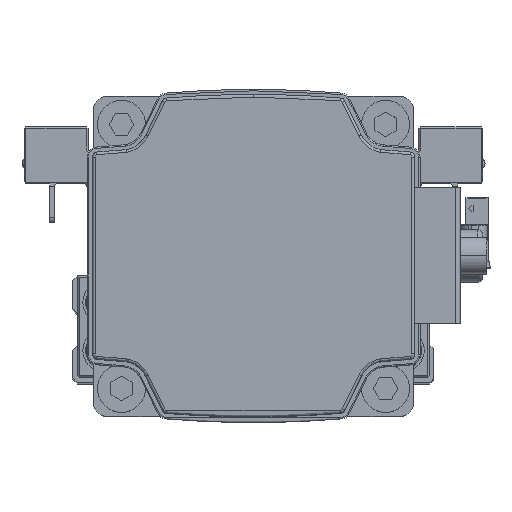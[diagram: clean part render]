
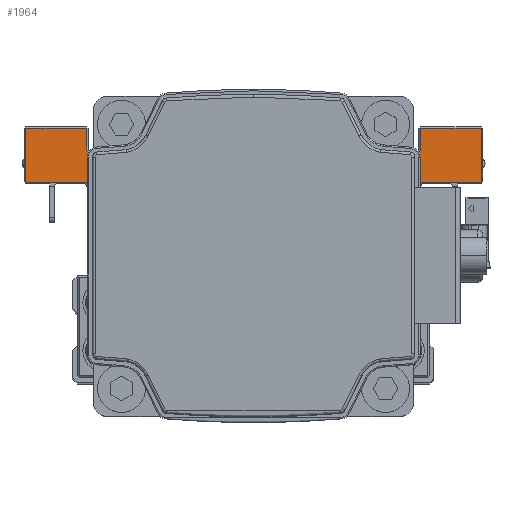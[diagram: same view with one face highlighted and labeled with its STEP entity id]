
A CAD part, top view. The second image highlights one B-rep face of the part: STEP entity #1964.
In plain terms, the highlighted planar face has unit normal (0, 0, 1) as drawn and (1, 0, 0) by its records, which use the part's own axes.
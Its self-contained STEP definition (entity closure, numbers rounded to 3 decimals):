
#343 = LINE ( 'NONE', #12201, #32493 ) ;
#515 = EDGE_CURVE ( 'NONE', #28626, #2421, #343, .T. ) ;
#771 = CARTESIAN_POINT ( 'NONE',  ( 25.5, 12.7, -30. ) ) ;
#858 = ORIENTED_EDGE ( 'NONE', *, *, #33296, .F. ) ;
#1086 = DIRECTION ( 'NONE',  ( 0., 0., 1. ) ) ;
#1178 = VERTEX_POINT ( 'NONE', #10595 ) ;
#1474 = EDGE_CURVE ( 'NONE', #26567, #32103, #6990, .T. ) ;
#1796 = VECTOR ( 'NONE', #9021, 1000. ) ;
#1886 = CARTESIAN_POINT ( 'NONE',  ( 25.5, 17.7, -15. ) ) ;
#1964 = ADVANCED_FACE ( 'NONE', ( #7334 ), #19205, .F. ) ;
#2361 = LINE ( 'NONE', #14222, #13254 ) ;
#2421 = VERTEX_POINT ( 'NONE', #10406 ) ;
#2443 = EDGE_CURVE ( 'NONE', #2421, #19085, #25378, .T. ) ;
#2556 = ORIENTED_EDGE ( 'NONE', *, *, #2443, .T. ) ;
#2616 = VECTOR ( 'NONE', #21791, 1000. ) ;
#2781 = CIRCLE ( 'NONE', #24547, 2. ) ;
#3174 = ORIENTED_EDGE ( 'NONE', *, *, #20057, .T. ) ;
#3319 = VERTEX_POINT ( 'NONE', #19444 ) ;
#3394 = ORIENTED_EDGE ( 'NONE', *, *, #36011, .T. ) ;
#3923 = CARTESIAN_POINT ( 'NONE',  ( 25.5, 7.5, -17. ) ) ;
#4184 = DIRECTION ( 'NONE',  ( 0., -1., 0. ) ) ;
#4426 = DIRECTION ( 'NONE',  ( -1., 0., 0. ) ) ;
#4474 = CARTESIAN_POINT ( 'NONE',  ( 25.5, 17.7, 42.7 ) ) ;
#5676 = ORIENTED_EDGE ( 'NONE', *, *, #29744, .T. ) ;
#6506 = CARTESIAN_POINT ( 'NONE',  ( 25.5, 14., -31.3 ) ) ;
#6843 = DIRECTION ( 'NONE',  ( 0., 0., 1. ) ) ;
#6990 = LINE ( 'NONE', #18864, #37552 ) ;
#7123 = VERTEX_POINT ( 'NONE', #37212 ) ;
#7334 = FACE_OUTER_BOUND ( 'NONE', #18688, .T. ) ;
#8159 = ORIENTED_EDGE ( 'NONE', *, *, #37929, .T. ) ;
#8250 = CARTESIAN_POINT ( 'NONE',  ( 25.5, 5.5, 15. ) ) ;
#8418 = VECTOR ( 'NONE', #10600, 1000. ) ;
#8929 = DIRECTION ( 'NONE',  ( -1., 0., 0. ) ) ;
#9021 = DIRECTION ( 'NONE',  ( 0., 0., -1. ) ) ;
#9038 = CARTESIAN_POINT ( 'NONE',  ( 25.5, -7.5, -15. ) ) ;
#9151 = CARTESIAN_POINT ( 'NONE',  ( 25.5, 5.5, 17. ) ) ;
#9329 = LINE ( 'NONE', #21196, #31872 ) ;
#9642 = VECTOR ( 'NONE', #34101, 1000. ) ;
#9919 = CARTESIAN_POINT ( 'NONE',  ( 25.5, 7.5, -15. ) ) ;
#10395 = LINE ( 'NONE', #22251, #9642 ) ;
#10406 = CARTESIAN_POINT ( 'NONE',  ( 25.5, 7.5, 42.7 ) ) ;
#10595 = CARTESIAN_POINT ( 'NONE',  ( 25.5, 5.5, -15. ) ) ;
#10600 = DIRECTION ( 'NONE',  ( 0., 0., -1. ) ) ;
#11304 = ORIENTED_EDGE ( 'NONE', *, *, #31710, .T. ) ;
#11562 = DIRECTION ( 'NONE',  ( 0., 1., 0. ) ) ;
#11845 = DIRECTION ( 'NONE',  ( -1., 0., 0. ) ) ;
#12201 = CARTESIAN_POINT ( 'NONE',  ( 25.5, 7.5, 42.7 ) ) ;
#12533 = CARTESIAN_POINT ( 'NONE',  ( 25.5, 5.5, -17. ) ) ;
#12613 = AXIS2_PLACEMENT_3D ( 'NONE', #15863, #27719, #1086 ) ;
#12764 = VERTEX_POINT ( 'NONE', #21607 ) ;
#13099 = AXIS2_PLACEMENT_3D ( 'NONE', #35560, #8929, #20798 ) ;
#13179 = CIRCLE ( 'NONE', #34901, 2. ) ;
#13254 = VECTOR ( 'NONE', #26089, 1000. ) ;
#13746 = DIRECTION ( 'NONE',  ( 0., 0., 1. ) ) ;
#14222 = CARTESIAN_POINT ( 'NONE',  ( 25.5, 7.5, 31.3 ) ) ;
#14370 = CARTESIAN_POINT ( 'NONE',  ( 25.5, -7.5, 15. ) ) ;
#15863 = CARTESIAN_POINT ( 'NONE',  ( 25.5, 14., 30. ) ) ;
#16279 = DIRECTION ( 'NONE',  ( 0., 0., 1. ) ) ;
#16504 = EDGE_CURVE ( 'NONE', #1178, #37028, #2781, .T. ) ;
#16852 = ORIENTED_EDGE ( 'NONE', *, *, #33146, .T. ) ;
#17814 = EDGE_CURVE ( 'NONE', #19088, #33329, #9329, .T. ) ;
#17974 = ORIENTED_EDGE ( 'NONE', *, *, #36432, .T. ) ;
#18127 = ORIENTED_EDGE ( 'NONE', *, *, #1474, .T. ) ;
#18688 = EDGE_LOOP ( 'NONE', ( #5676, #17974, #23050, #3174, #11304, #25627, #28024, #3394, #26998, #26467, #2556, #16852, #8159, #18127, #858, #20700 ) ) ;
#18864 = CARTESIAN_POINT ( 'NONE',  ( 25.5, -7.5, -15. ) ) ;
#18974 = LINE ( 'NONE', #30813, #26984 ) ;
#19085 = VERTEX_POINT ( 'NONE', #27410 ) ;
#19088 = VERTEX_POINT ( 'NONE', #771 ) ;
#19205 = PLANE ( 'NONE',  #28890 ) ;
#19444 = CARTESIAN_POINT ( 'NONE',  ( 25.5, 7.5, -42.7 ) ) ;
#20057 = EDGE_CURVE ( 'NONE', #7123, #32183, #18974, .T. ) ;
#20495 = VERTEX_POINT ( 'NONE', #21537 ) ;
#20700 = ORIENTED_EDGE ( 'NONE', *, *, #16504, .T. ) ;
#20798 = DIRECTION ( 'NONE',  ( 0., 0., 1. ) ) ;
#21010 = DIRECTION ( 'NONE',  ( -1., 0., 0. ) ) ;
#21196 = CARTESIAN_POINT ( 'NONE',  ( 25.5, 12.7, 30. ) ) ;
#21537 = CARTESIAN_POINT ( 'NONE',  ( 25.5, 14., 31.3 ) ) ;
#21607 = CARTESIAN_POINT ( 'NONE',  ( 25.5, 17.7, 31.3 ) ) ;
#21627 = LINE ( 'NONE', #33470, #36990 ) ;
#21791 = DIRECTION ( 'NONE',  ( 0., -1., 0. ) ) ;
#22251 = CARTESIAN_POINT ( 'NONE',  ( 25.5, 7.5, 15. ) ) ;
#23050 = ORIENTED_EDGE ( 'NONE', *, *, #38269, .T. ) ;
#23612 = EDGE_CURVE ( 'NONE', #12764, #28626, #28525, .T. ) ;
#23707 = DIRECTION ( 'NONE',  ( 0., 0., 1. ) ) ;
#23785 = LINE ( 'NONE', #35643, #1796 ) ;
#24064 = DIRECTION ( 'NONE',  ( 0., -1., 0. ) ) ;
#24547 = AXIS2_PLACEMENT_3D ( 'NONE', #12533, #11845, #23707 ) ;
#25213 = CARTESIAN_POINT ( 'NONE',  ( 25.5, 17.7, -42.7 ) ) ;
#25378 = LINE ( 'NONE', #37233, #8418 ) ;
#25627 = ORIENTED_EDGE ( 'NONE', *, *, #17814, .T. ) ;
#26089 = DIRECTION ( 'NONE',  ( 0., 1., 0. ) ) ;
#26333 = LINE ( 'NONE', #38204, #26921 ) ;
#26467 = ORIENTED_EDGE ( 'NONE', *, *, #515, .T. ) ;
#26567 = VERTEX_POINT ( 'NONE', #14370 ) ;
#26921 = VECTOR ( 'NONE', #11562, 1000. ) ;
#26984 = VECTOR ( 'NONE', #4184, 1000. ) ;
#26998 = ORIENTED_EDGE ( 'NONE', *, *, #23612, .T. ) ;
#27410 = CARTESIAN_POINT ( 'NONE',  ( 25.5, 7.5, 17. ) ) ;
#27719 = DIRECTION ( 'NONE',  ( -1., 0., 0. ) ) ;
#28003 = CARTESIAN_POINT ( 'NONE',  ( 25.5, 12.7, 30. ) ) ;
#28024 = ORIENTED_EDGE ( 'NONE', *, *, #34172, .T. ) ;
#28525 = LINE ( 'NONE', #1886, #33927 ) ;
#28626 = VERTEX_POINT ( 'NONE', #4474 ) ;
#28890 = AXIS2_PLACEMENT_3D ( 'NONE', #31050, #4426, #16279 ) ;
#29367 = CIRCLE ( 'NONE', #12613, 1.3 ) ;
#29744 = EDGE_CURVE ( 'NONE', #37028, #3319, #23785, .T. ) ;
#29849 = CIRCLE ( 'NONE', #13099, 1.3 ) ;
#30709 = DIRECTION ( 'NONE',  ( 0., 0., -1. ) ) ;
#30782 = VERTEX_POINT ( 'NONE', #25213 ) ;
#30813 = CARTESIAN_POINT ( 'NONE',  ( 25.5, 7.5, -31.3 ) ) ;
#31050 = CARTESIAN_POINT ( 'NONE',  ( 25.5, 7.5, -15. ) ) ;
#31710 = EDGE_CURVE ( 'NONE', #32183, #19088, #29849, .T. ) ;
#31872 = VECTOR ( 'NONE', #33037, 1000. ) ;
#32103 = VERTEX_POINT ( 'NONE', #9038 ) ;
#32183 = VERTEX_POINT ( 'NONE', #6506 ) ;
#32493 = VECTOR ( 'NONE', #24064, 1000. ) ;
#32853 = DIRECTION ( 'NONE',  ( 0., 0., 1. ) ) ;
#33037 = DIRECTION ( 'NONE',  ( 0., 0., 1. ) ) ;
#33146 = EDGE_CURVE ( 'NONE', #19085, #35642, #13179, .T. ) ;
#33296 = EDGE_CURVE ( 'NONE', #1178, #32103, #36551, .T. ) ;
#33329 = VERTEX_POINT ( 'NONE', #28003 ) ;
#33470 = CARTESIAN_POINT ( 'NONE',  ( 25.5, 17.7, -15. ) ) ;
#33927 = VECTOR ( 'NONE', #13746, 1000. ) ;
#34101 = DIRECTION ( 'NONE',  ( 0., -1., 0. ) ) ;
#34172 = EDGE_CURVE ( 'NONE', #33329, #20495, #29367, .T. ) ;
#34901 = AXIS2_PLACEMENT_3D ( 'NONE', #9151, #21010, #32853 ) ;
#35560 = CARTESIAN_POINT ( 'NONE',  ( 25.5, 14., -30. ) ) ;
#35642 = VERTEX_POINT ( 'NONE', #8250 ) ;
#35643 = CARTESIAN_POINT ( 'NONE',  ( 25.5, 7.5, 43. ) ) ;
#36011 = EDGE_CURVE ( 'NONE', #20495, #12764, #2361, .T. ) ;
#36432 = EDGE_CURVE ( 'NONE', #3319, #30782, #26333, .T. ) ;
#36551 = LINE ( 'NONE', #9919, #2616 ) ;
#36990 = VECTOR ( 'NONE', #6843, 1000. ) ;
#37028 = VERTEX_POINT ( 'NONE', #3923 ) ;
#37212 = CARTESIAN_POINT ( 'NONE',  ( 25.5, 17.7, -31.3 ) ) ;
#37233 = CARTESIAN_POINT ( 'NONE',  ( 25.5, 7.5, 43. ) ) ;
#37552 = VECTOR ( 'NONE', #30709, 1000. ) ;
#37929 = EDGE_CURVE ( 'NONE', #35642, #26567, #10395, .T. ) ;
#38204 = CARTESIAN_POINT ( 'NONE',  ( 25.5, 7.5, -42.7 ) ) ;
#38269 = EDGE_CURVE ( 'NONE', #30782, #7123, #21627, .T. ) ;
